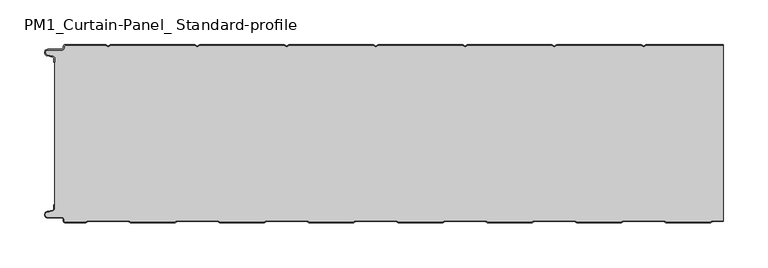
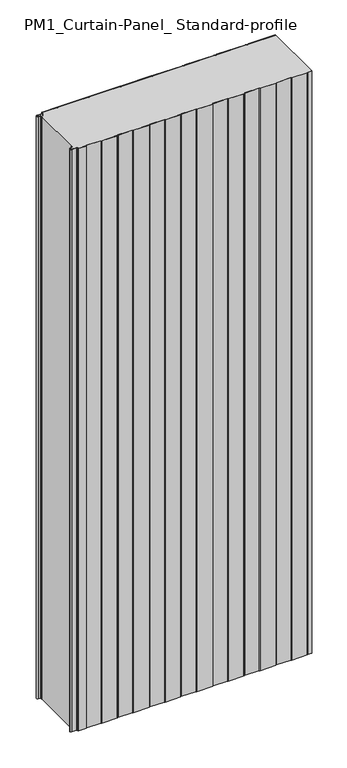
"""IFC4 building model written with IfcOpenShell, lengths in millimetres: plate geometry, PM1_Curtain-Panel_ Standard-profile : ACH_PM1_Acoustic-Sectioning-Panel_200M."""

from ifc_helpers import new_model, si_unit, point, frame_2d, origin, origin_with_axes, place, context, project, spatial, polyline, circle_curve, trimmed, segment, composite_curve, outline, extrude, source, transform, mapped, element, save


def pm1_curtain_panel_standard_profile_8dcfa809(model_context):
    return source(origin(), model_context, "Body", "SweptSolid", [
        extrude(outline(composite_curve([segment(trimmed(circle_curve(frame_2d((-377.0119739, -15.878557)), 2.0), [point((-375.0119739, -15.878557))], [point((-376.5620718, -13.9298169))], True, "CARTESIAN"), True, "CONTINUOUS"), segment(polyline([(-376.5620718, -13.9298169), (-382.7217978, -12.507732)]), True, "CONTINUOUS"), segment(trimmed(circle_curve(frame_2d((-381.9119739, -9.0)), 3.6), [point((-382.7217978, -12.507732))], [point((-381.9119739, -5.4))], False, "CARTESIAN"), True, "CONTINUOUS"), segment(polyline([(-381.9119739, -5.4), (-366.4119739, -5.4)]), True, "CONTINUOUS"), segment(trimmed(circle_curve(frame_2d((-366.4119739, -3.4)), 2.0), [point((-366.4119739, -5.4))], [point((-364.4119739, -3.4))], True, "CARTESIAN"), True, "CONTINUOUS"), segment(polyline([(-364.4119739, -3.4), (-364.4119739, -2.0)]), True, "CONTINUOUS"), segment(trimmed(circle_curve(frame_2d((-362.4119739, -2.0)), 2.0), [point((-364.4119739, -2.0))], [point((-362.4119739, 0.0))], False, "CARTESIAN"), True, "CONTINUOUS"), segment(polyline([(-362.4119739, 0.0), (-317.1119734, 0.0), (-314.4119739, -1.5588455), (-311.7119745, 0.0), (-217.1119734, 0.0), (-214.4119739, -1.5588455), (-211.7119745, 0.0), (-117.1119734, 0.0), (-114.4119739, -1.5588455), (-111.7119745, 0.0), (-17.1119734, 0.0), (-14.4119739, -1.5588455), (-11.7119745, 0.0), (82.8880266, 0.0), (85.5880261, -1.5588455), (88.2880255, 0.0), (182.8880266, 0.0), (185.5880261, -1.5588455), (188.2880255, 0.0), (282.8880266, 0.0), (285.5880261, -1.5588455), (288.2880255, 0.0), (375.0119739, 0.0), (375.0119739, -0.8), (288.5023849, -0.8), (285.5880261, -2.482606), (282.6736672, -0.8), (188.5023849, -0.8), (185.5880261, -2.482606), (182.6736672, -0.8), (88.5023849, -0.8), (85.5880261, -2.482606), (82.6736672, -0.8), (-11.4976151, -0.8), (-14.4119739, -2.482606), (-17.3263328, -0.8), (-111.4976151, -0.8), (-114.4119739, -2.482606), (-117.3263328, -0.8), (-211.4976151, -0.8), (-214.4119739, -2.482606), (-217.3263328, -0.8), (-311.4976151, -0.8), (-314.4119739, -2.482606), (-317.3263328, -0.8), (-362.4119739, -0.8)]), True, "CONTINUOUS"), segment(trimmed(circle_curve(frame_2d((-362.4119739, -2.0)), 1.2), [point((-362.4119739, -0.8))], [point((-363.6119739, -2.0))], True, "CARTESIAN"), True, "CONTINUOUS"), segment(polyline([(-363.6119739, -2.0), (-363.6119739, -3.4)]), True, "CONTINUOUS"), segment(trimmed(circle_curve(frame_2d((-366.4119739, -3.4)), 2.8), [point((-363.6119739, -3.4))], [point((-366.4119739, -6.2))], False, "CARTESIAN"), True, "CONTINUOUS"), segment(polyline([(-366.4119739, -6.2), (-381.9119739, -6.2)]), True, "CONTINUOUS"), segment(trimmed(circle_curve(frame_2d((-381.9119739, -9.0)), 2.8), [point((-381.9119739, -6.2))], [point((-382.541837, -11.7282362))], True, "CARTESIAN"), True, "CONTINUOUS"), segment(polyline([(-382.541837, -11.7282362), (-376.3821109, -13.150321)]), True, "CONTINUOUS"), segment(trimmed(circle_curve(frame_2d((-377.0119739, -15.878557)), 2.8), [point((-376.3821109, -13.150321))], [point((-374.2119739, -15.878557))], False, "CARTESIAN"), True, "CONTINUOUS"), segment(polyline([(-374.2119739, -15.878557), (-374.2119739, -20.0), (-375.0119739, -20.0), (-375.0119739, -15.878557)]), True, "CONTINUOUS")], self_intersect=False)), origin_with_axes(), (0.0, 0.0, 1.0), 1945.7507136),
        extrude(outline(composite_curve([segment(polyline([(-374.2119739, -184.121443), (-374.2119739, -15.8785573)]), True, "CONTINUOUS"), segment(trimmed(circle_curve(frame_2d((-377.0119739, -15.8785573)), 2.8), [point((-374.2119739, -15.8785573))], [point((-376.3821109, -13.1503212))], True, "CARTESIAN"), True, "CONTINUOUS"), segment(polyline([(-376.3821109, -13.1503212), (-382.541837, -11.7282362)]), True, "CONTINUOUS"), segment(trimmed(circle_curve(frame_2d((-381.911974, -9.0)), 2.8), [point((-382.541837, -11.7282362))], [point((-381.911974, -6.2))], False, "CARTESIAN"), True, "CONTINUOUS"), segment(polyline([(-381.911974, -6.2), (-366.411974, -6.2)]), True, "CONTINUOUS"), segment(trimmed(circle_curve(frame_2d((-366.411974, -3.4)), 2.8), [point((-366.411974, -6.2))], [point((-363.611974, -3.4))], True, "CARTESIAN"), True, "CONTINUOUS"), segment(polyline([(-363.611974, -3.4), (-363.611974, -2.0)]), True, "CONTINUOUS"), segment(trimmed(circle_curve(frame_2d((-362.411974, -2.0)), 1.2), [point((-363.611974, -2.0))], [point((-362.411974, -0.8))], False, "CARTESIAN"), True, "CONTINUOUS"), segment(polyline([(-362.411974, -0.8), (-317.3263329, -0.8), (-314.411974, -2.482606), (-311.4976152, -0.8), (-217.3263329, -0.8), (-214.411974, -2.482606), (-211.4976152, -0.8), (-117.3263329, -0.8), (-114.411974, -2.482606), (-111.4976152, -0.8), (-17.3263329, -0.8), (-14.411974, -2.482606), (-11.4976152, -0.8), (82.6736671, -0.8), (85.588026, -2.482606), (88.5023848, -0.8), (182.6736671, -0.8), (185.588026, -2.482606), (188.5023848, -0.8), (282.6736671, -0.8), (285.588026, -2.482606), (288.5023848, -0.8), (375.0119739, -0.8), (375.0119739, -197.7), (362.9717445, -197.7), (360.3736669, -199.2), (310.7985382, -199.2), (308.2004606, -197.7), (262.9717445, -197.7), (260.3736669, -199.2), (210.7985382, -199.2), (208.2004606, -197.7), (162.9717445, -197.7), (160.3736669, -199.2), (110.7985382, -199.2), (108.2004606, -197.7), (62.9717445, -197.7), (60.3736669, -199.2), (10.7985382, -199.2), (8.2004606, -197.7), (-37.0282555, -197.7), (-39.6263331, -199.2), (-89.2014618, -199.2), (-91.7995394, -197.7), (-137.0282555, -197.7), (-139.6263331, -199.2), (-189.2014618, -199.2), (-191.7995394, -197.7), (-237.0282555, -197.7), (-239.6263331, -199.2), (-289.2014618, -199.2), (-291.7995394, -197.7), (-337.0282555, -197.7), (-339.6263331, -199.2), (-362.4119739, -199.2)]), True, "CONTINUOUS"), segment(trimmed(circle_curve(frame_2d((-362.4119739, -198.0)), 1.2), [point((-362.4119739, -199.2))], [point((-363.6119739, -198.0))], False, "CARTESIAN"), True, "CONTINUOUS"), segment(polyline([(-363.6119739, -198.0), (-363.6119739, -196.5999998)]), True, "CONTINUOUS"), segment(trimmed(circle_curve(frame_2d((-366.4119739, -196.5999998)), 2.8), [point((-363.6119739, -196.5999998))], [point((-366.4119739, -193.7999998))], True, "CARTESIAN"), True, "CONTINUOUS"), segment(polyline([(-366.4119739, -193.7999998), (-381.9119739, -193.7999998)]), True, "CONTINUOUS"), segment(trimmed(circle_curve(frame_2d((-381.9119739, -191.0)), 2.7999998), [point((-381.9119739, -193.7999998))], [point((-382.5418369, -188.271764))], False, "CARTESIAN"), True, "CONTINUOUS"), segment(polyline([(-382.5418369, -188.271764), (-376.3821109, -186.8496792)]), True, "CONTINUOUS"), segment(trimmed(circle_curve(frame_2d((-377.0119739, -184.121443)), 2.8), [point((-376.3821109, -186.8496792))], [point((-374.2119739, -184.121443))], True, "CARTESIAN"), True, "CONTINUOUS")], self_intersect=False)), origin_with_axes(), (0.0, 0.0, 1.0), 1945.7507136),
        extrude(outline(composite_curve([segment(trimmed(circle_curve(frame_2d((-362.4119739, -198.0)), 2.0), [point((-362.4119739, -200.0))], [point((-364.4119739, -198.0))], False, "CARTESIAN"), True, "CONTINUOUS"), segment(polyline([(-364.4119739, -198.0), (-364.4119739, -196.6)]), True, "CONTINUOUS"), segment(trimmed(circle_curve(frame_2d((-366.4119739, -196.6)), 2.0), [point((-364.4119739, -196.6))], [point((-366.4119739, -194.6))], True, "CARTESIAN"), True, "CONTINUOUS"), segment(polyline([(-366.4119739, -194.6), (-381.9119739, -194.6)]), True, "CONTINUOUS"), segment(trimmed(circle_curve(frame_2d((-381.9119739, -191.0)), 3.6), [point((-381.9119739, -194.6))], [point((-382.7217979, -187.4922678))], False, "CARTESIAN"), True, "CONTINUOUS"), segment(polyline([(-382.7217979, -187.4922678), (-376.5620718, -186.070183)]), True, "CONTINUOUS"), segment(trimmed(circle_curve(frame_2d((-377.0119739, -184.121443)), 2.0), [point((-376.5620718, -186.070183))], [point((-375.0119739, -184.121443))], True, "CARTESIAN"), True, "CONTINUOUS"), segment(polyline([(-375.0119739, -184.121443), (-375.0119739, -180.0), (-374.2119739, -180.0), (-374.2119739, -184.121443)]), True, "CONTINUOUS"), segment(trimmed(circle_curve(frame_2d((-377.0119739, -184.121443)), 2.8), [point((-374.2119739, -184.121443))], [point((-376.3821109, -186.8496792))], False, "CARTESIAN"), True, "CONTINUOUS"), segment(polyline([(-376.3821109, -186.8496792), (-382.5418369, -188.271764)]), True, "CONTINUOUS"), segment(trimmed(circle_curve(frame_2d((-381.9119739, -191.0)), 2.8), [point((-382.5418369, -188.271764))], [point((-381.9119739, -193.8))], True, "CARTESIAN"), True, "CONTINUOUS"), segment(polyline([(-381.9119739, -193.8), (-366.4119739, -193.8)]), True, "CONTINUOUS"), segment(trimmed(circle_curve(frame_2d((-366.4119739, -196.6)), 2.8), [point((-366.4119739, -193.8))], [point((-363.6119739, -196.6))], False, "CARTESIAN"), True, "CONTINUOUS"), segment(polyline([(-363.6119739, -196.6), (-363.6119739, -198.0)]), True, "CONTINUOUS"), segment(trimmed(circle_curve(frame_2d((-362.4119739, -198.0)), 1.2), [point((-363.6119739, -198.0))], [point((-362.4119739, -199.2))], True, "CARTESIAN"), True, "CONTINUOUS"), segment(polyline([(-362.4119739, -199.2), (-339.6263331, -199.2), (-337.0282555, -197.7), (-291.7995394, -197.7), (-289.2014618, -199.2), (-239.6263331, -199.2), (-237.0282555, -197.7), (-191.7995394, -197.7), (-189.2014618, -199.2), (-139.6263331, -199.2), (-137.0282555, -197.7), (-91.7995394, -197.7), (-89.2014618, -199.2), (-39.6263331, -199.2), (-37.0282555, -197.7), (8.2004606, -197.7), (10.7985382, -199.2), (60.3736669, -199.2), (62.9717445, -197.7), (108.2004606, -197.7), (110.7985382, -199.2), (160.3736669, -199.2), (162.9717445, -197.7), (208.2004606, -197.7), (210.7985382, -199.2), (260.3736669, -199.2), (262.9717445, -197.7), (308.2004606, -197.7), (310.7985382, -199.2), (360.3736669, -199.2), (362.9717445, -197.7), (375.0119739, -197.7), (375.0119739, -198.5), (363.1861037, -198.5), (360.5880261, -200.0), (310.584179, -200.0), (307.9861014, -198.5), (263.1861037, -198.5), (260.5880261, -200.0), (210.584179, -200.0), (207.9861014, -198.5), (163.1861037, -198.5), (160.5880261, -200.0), (110.584179, -200.0), (107.9861014, -198.5), (63.1861037, -198.5), (60.5880261, -200.0), (10.584179, -200.0), (7.9861014, -198.5), (-36.8138963, -198.5), (-39.4119739, -200.0), (-89.415821, -200.0), (-92.0138986, -198.5), (-136.8138963, -198.5), (-139.4119739, -200.0), (-189.415821, -200.0), (-192.0138986, -198.5), (-236.8138963, -198.5), (-239.4119739, -200.0), (-289.415821, -200.0), (-292.0138986, -198.5), (-336.8138963, -198.5), (-339.4119739, -200.0), (-362.4119739, -200.0)]), True, "CONTINUOUS")], self_intersect=False)), origin_with_axes(), (0.0, 0.0, 1.0), 1945.7507136),
    ])


if __name__ == "__main__":
    model = new_model("IFC4")
    model_context = context("Model", 3, world=origin())
    ifc_project = project(units=[si_unit("LENGTHUNIT", "METRE", prefix="MILLI")], contexts=[model_context])
    site = spatial("IfcSite", under=ifc_project)
    building = spatial("IfcBuilding", under=site)
    placement = place(None, origin())
    pm1_curtain_panel_standard_profile_shape = pm1_curtain_panel_standard_profile_8dcfa809(model_context)
    element("IfcPlate", 1, ObjectType="PM1_Curtain-Panel_ Standard-profile : ACH_PM1_Acoustic-Sectioning-Panel_200M", at=placement, inside=building, context=model_context, shape_type="MappedRepresentation", body=[
        mapped(pm1_curtain_panel_standard_profile_shape, transform((0.0, 0.0, 0.0), x_axis=(1.0, 0.0, 0.0), y_axis=(0.0, 1.0, 0.0), z_axis=(0.0, 0.0, 1.0))),
    ])
    save(model, "model.ifc")
